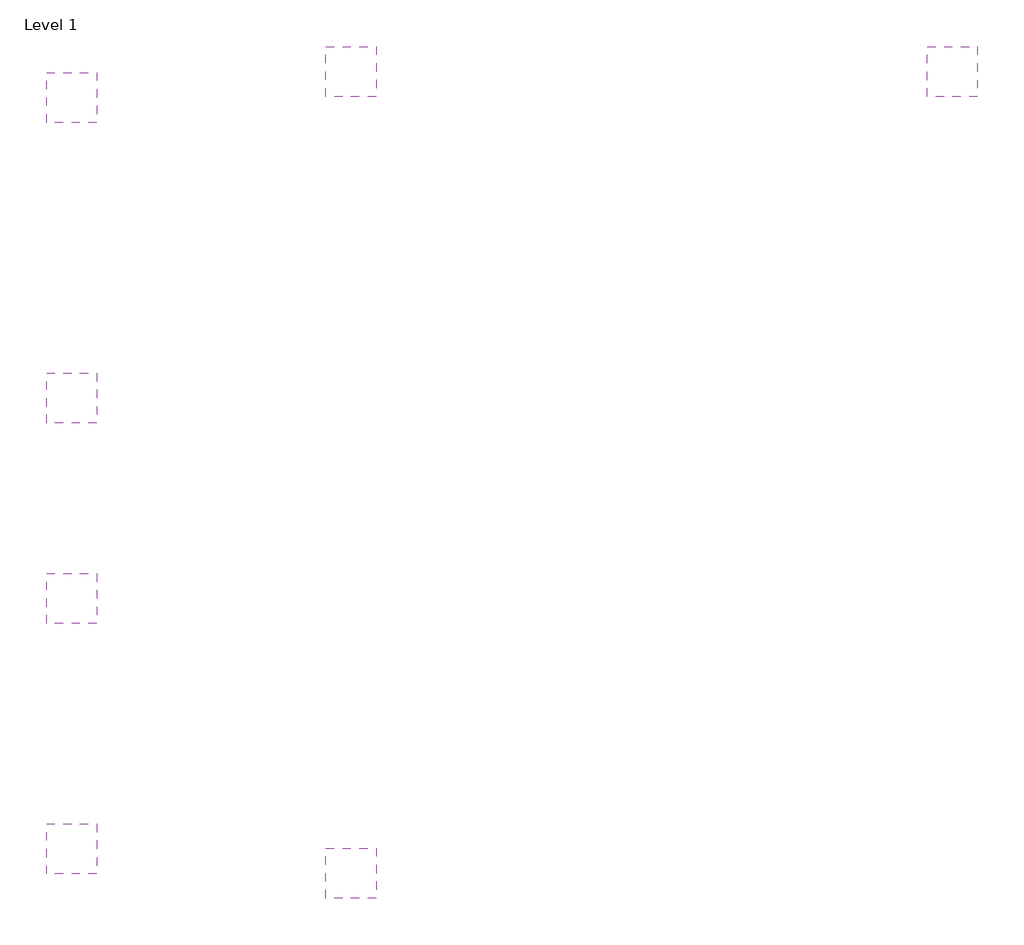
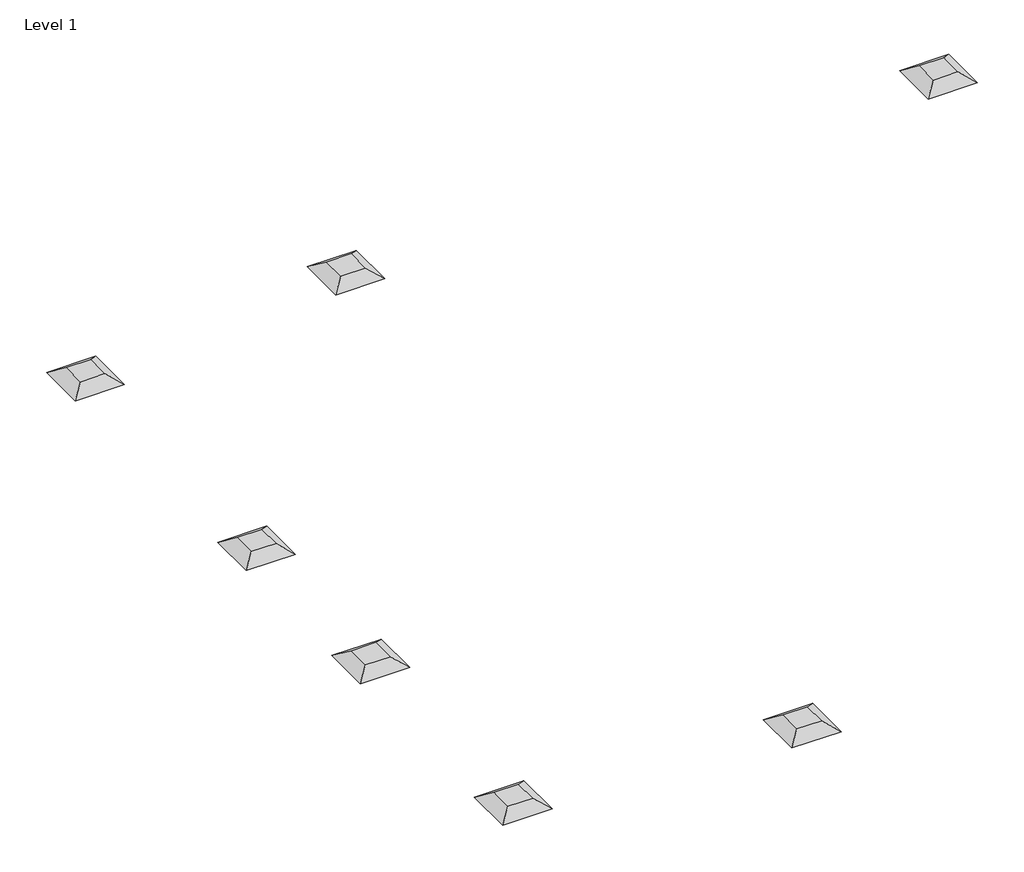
# One storey: 7 air terminals.
"""IFC4 building model written with IfcOpenShell, lengths in millimetres."""

from ifc_helpers import new_model, si_unit, origin, place, context, project, spatial, transform, mapped, element, save
from components import exhaust_diffuser_hosted_workplane_based_exhaust_diffuser_7695a80a

model = new_model("IFC4")

# Units and contexts
model_context = context("Model", 3, world=origin())
ifc_project = project(units=[si_unit("LENGTHUNIT", "METRE", prefix="MILLI")], contexts=[model_context])

# Site, building, storey
site = spatial("IfcSite", under=ifc_project)
building = spatial("IfcBuilding", under=site)
storey = spatial("IfcBuildingStorey", under=building, Name="Level 1", Elevation=0.0)

# Air terminals
placement = place(None, origin())
exhaust_diffuser_hosted_workplane_based_exhaust_diffuser_shape = exhaust_diffuser_hosted_workplane_based_exhaust_diffuser_7695a80a(model_context)
element("IfcAirTerminal", 1, ObjectType="Exhaust Diffuser - Hosted : Workplane-based Exhaust Diffuser", at=placement, inside=storey, context=model_context, shape_type="MappedRepresentation", body=[
    mapped(exhaust_diffuser_hosted_workplane_based_exhaust_diffuser_shape, transform((-27574.0292899, 21136.74154, 2514.6), x_axis=(0.0, -1.0, 0.0), y_axis=(-1.0, 0.0, 0.0), z_axis=(0.0, 0.0, -1.0))),
])
element("IfcAirTerminal", 2, ObjectType="Return Diffuser - Hosted : Workplane-based Return Diffuser", at=placement, inside=storey, context=model_context, shape_type="MappedRepresentation", body=[
    mapped(exhaust_diffuser_hosted_workplane_based_exhaust_diffuser_shape, transform((-34889.2292899, 21137.5209543, 2514.6), x_axis=(0.0, -1.0, 0.0), y_axis=(-1.0, 0.0, 0.0), z_axis=(0.0, 0.0, -1.0))),
])
element("IfcAirTerminal", 3, ObjectType="Return Diffuser - Hosted : Workplane-based Return Diffuser", at=placement, inside=storey, context=model_context, shape_type="MappedRepresentation", body=[
    mapped(exhaust_diffuser_hosted_workplane_based_exhaust_diffuser_shape, transform((-34889.2292899, 11383.14154, 2514.6), x_axis=(0.0, -1.0, 0.0), y_axis=(-1.0, 0.0, 0.0), z_axis=(0.0, 0.0, -1.0))),
])
element("IfcAirTerminal", 4, ObjectType="Supply Diffuser - Hosted : Workplane-based Supply Diffuser", at=placement, inside=storey, context=model_context, shape_type="MappedRepresentation", body=[
    mapped(exhaust_diffuser_hosted_workplane_based_exhaust_diffuser_shape, transform((-38287.2730399, 20821.62279, 2514.6), x_axis=(-1.0, 0.0, 0.0), y_axis=(0.0, 1.0, 0.0), z_axis=(0.0, 0.0, -1.0))),
])
element("IfcAirTerminal", 5, ObjectType="Supply Diffuser - Hosted : Workplane-based Supply Diffuser", at=placement, inside=storey, context=model_context, shape_type="MappedRepresentation", body=[
    mapped(exhaust_diffuser_hosted_workplane_based_exhaust_diffuser_shape, transform((-38287.2730399, 17164.02279, 2514.6), x_axis=(-1.0, 0.0, 0.0), y_axis=(0.0, 1.0, 0.0), z_axis=(0.0, 0.0, -1.0))),
])
element("IfcAirTerminal", 6, ObjectType="Supply Diffuser - Hosted : Workplane-based Supply Diffuser", at=placement, inside=storey, context=model_context, shape_type="MappedRepresentation", body=[
    mapped(exhaust_diffuser_hosted_workplane_based_exhaust_diffuser_shape, transform((-38287.2730399, 14725.62279, 2514.6), x_axis=(-1.0, 0.0, 0.0), y_axis=(0.0, 1.0, 0.0), z_axis=(0.0, 0.0, -1.0))),
])
element("IfcAirTerminal", 7, ObjectType="Supply Diffuser - Hosted : Workplane-based Supply Diffuser", at=placement, inside=storey, context=model_context, shape_type="MappedRepresentation", body=[
    mapped(exhaust_diffuser_hosted_workplane_based_exhaust_diffuser_shape, transform((-38287.2730399, 11677.62279, 2514.6), x_axis=(-1.0, 0.0, 0.0), y_axis=(0.0, 1.0, 0.0), z_axis=(0.0, 0.0, -1.0))),
])

save(model, "model.ifc")
